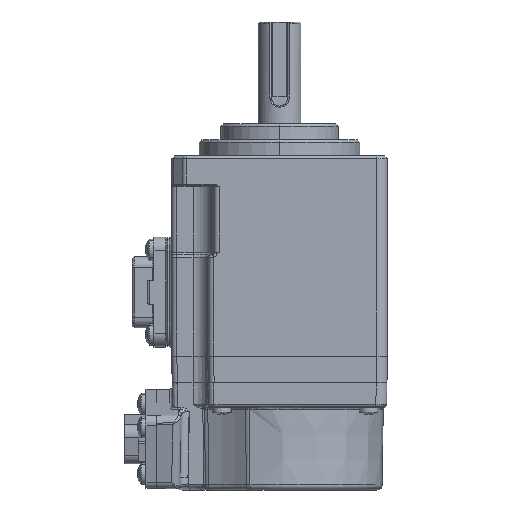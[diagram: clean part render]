
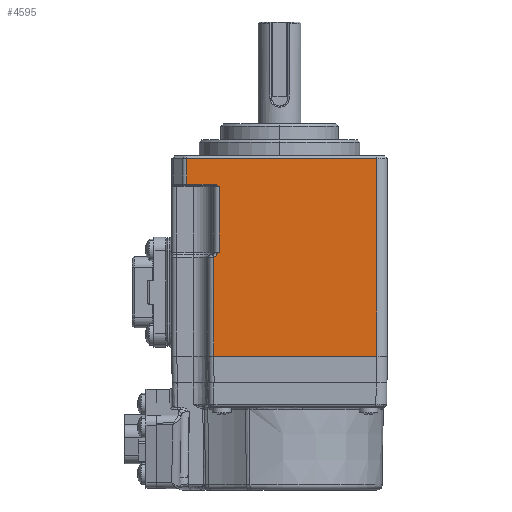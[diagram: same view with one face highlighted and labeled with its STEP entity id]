
A CAD part, left-side view. The second image highlights one B-rep face of the part: STEP entity #4595.
In plain terms, the highlighted planar face has unit normal (-1, 0, 0).
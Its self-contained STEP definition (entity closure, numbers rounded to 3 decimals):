
#520 = CARTESIAN_POINT ( 'NONE',  ( -20.15, 12.31, -24.924 ) ) ;
#2677 = LINE ( 'NONE', #82858, #77172 ) ;
#3313 = ORIENTED_EDGE ( 'NONE', *, *, #106056, .T. ) ;
#4147 = ORIENTED_EDGE ( 'NONE', *, *, #62176, .T. ) ;
#4595 = ADVANCED_FACE ( 'NONE', ( #45113 ), #28898, .T. ) ;
#4840 = VECTOR ( 'NONE', #79926, 1000. ) ;
#5604 = LINE ( 'NONE', #21321, #102404 ) ;
#7879 = LINE ( 'NONE', #104161, #4840 ) ;
#9216 = CARTESIAN_POINT ( 'NONE',  ( -20.15, 11.443, -24.189 ) ) ;
#10135 = EDGE_CURVE ( 'NONE', #52350, #14438, #67945, .T. ) ;
#13481 = DIRECTION ( 'NONE',  ( 0., 0., 1. ) ) ;
#14438 = VERTEX_POINT ( 'NONE', #96520 ) ;
#14859 = DIRECTION ( 'NONE',  ( 0., 0., -1. ) ) ;
#18900 = EDGE_CURVE ( 'NONE', #77951, #57094, #105154, .T. ) ;
#20103 = AXIS2_PLACEMENT_3D ( 'NONE', #65852, #109647, #101009 ) ;
#21321 = CARTESIAN_POINT ( 'NONE',  ( -20.15, 12.31, -55.7 ) ) ;
#21798 = CARTESIAN_POINT ( 'NONE',  ( -20.15, 17.336, -55.7 ) ) ;
#22883 = VERTEX_POINT ( 'NONE', #71019 ) ;
#23055 = EDGE_LOOP ( 'NONE', ( #27839, #60065, #4147, #95213, #99012, #105454, #3313, #86135, #47336 ) ) ;
#23962 = CARTESIAN_POINT ( 'NONE',  ( -20.15, -18.15, -43.4 ) ) ;
#27839 = ORIENTED_EDGE ( 'NONE', *, *, #64323, .F. ) ;
#28898 = PLANE ( 'NONE',  #20103 ) ;
#30194 = VERTEX_POINT ( 'NONE', #71326 ) ;
#31329 = CARTESIAN_POINT ( 'NONE',  ( -20.15, 11.445, -11.604 ) ) ;
#34342 = VECTOR ( 'NONE', #100686, 1000. ) ;
#35570 = CARTESIAN_POINT ( 'NONE',  ( -20.15, 12.31, -43.4 ) ) ;
#37811 = EDGE_CURVE ( 'NONE', #81852, #30194, #93590, .T. ) ;
#38082 = CARTESIAN_POINT ( 'NONE',  ( -20.15, 11.31, -11.3 ) ) ;
#38874 = CARTESIAN_POINT ( 'NONE',  ( -20.15, 12.204, -11.3 ) ) ;
#39025 = DIRECTION ( 'NONE',  ( 0., 1., 0. ) ) ;
#39129 = VECTOR ( 'NONE', #13481, 1000. ) ;
#39560 = CARTESIAN_POINT ( 'NONE',  ( -20.15, 17.336, -6.5 ) ) ;
#41369 = VERTEX_POINT ( 'NONE', #108300 ) ;
#45113 = FACE_OUTER_BOUND ( 'NONE', #23055, .T. ) ;
#47336 = ORIENTED_EDGE ( 'NONE', *, *, #72384, .T. ) ;
#48779 = CARTESIAN_POINT ( 'NONE',  ( -20.15, -20.15, -6.5 ) ) ;
#52350 = VERTEX_POINT ( 'NONE', #39560 ) ;
#57094 = VERTEX_POINT ( 'NONE', #61703 ) ;
#57421 = LINE ( 'NONE', #48779, #34342 ) ;
#60065 = ORIENTED_EDGE ( 'NONE', *, *, #37811, .T. ) ;
#61703 = CARTESIAN_POINT ( 'NONE',  ( -20.15, 12.31, -24.924 ) ) ;
#62098 = VECTOR ( 'NONE', #14859, 1000. ) ;
#62176 = EDGE_CURVE ( 'NONE', #30194, #52350, #57421, .T. ) ;
#63959 = CARTESIAN_POINT ( 'NONE',  ( -20.15, 11.31, -24. ) ) ;
#64046 = LINE ( 'NONE', #38082, #77603 ) ;
#64323 = EDGE_CURVE ( 'NONE', #81852, #88315, #2677, .T. ) ;
#65852 = CARTESIAN_POINT ( 'NONE',  ( -20.15, -20.15, -55.7 ) ) ;
#67945 = LINE ( 'NONE', #21798, #62098 ) ;
#71019 = CARTESIAN_POINT ( 'NONE',  ( -20.15, 12.204, -11.3 ) ) ;
#71326 = CARTESIAN_POINT ( 'NONE',  ( -20.15, -18.15, -6.5 ) ) ;
#72384 = EDGE_CURVE ( 'NONE', #57094, #88315, #5604, .T. ) ;
#73188 = CARTESIAN_POINT ( 'NONE',  ( -20.15, 11.903, -24.706 ) ) ;
#73277 = DIRECTION ( 'NONE',  ( 0., -1., 0. ) ) ;
#74049 = CARTESIAN_POINT ( 'NONE',  ( -20.15, 11.874, -11.357 ) ) ;
#74616 = CARTESIAN_POINT ( 'NONE',  ( -20.15, 11.31, -11.7 ) ) ;
#77172 = VECTOR ( 'NONE', #39025, 1000. ) ;
#77603 = VECTOR ( 'NONE', #73277, 1000. ) ;
#77951 = VERTEX_POINT ( 'NONE', #87090 ) ;
#78250 = EDGE_CURVE ( 'NONE', #22883, #41369, #95062, .T. ) ;
#79926 = DIRECTION ( 'NONE',  ( 0., 0., -1. ) ) ;
#81852 = VERTEX_POINT ( 'NONE', #23962 ) ;
#82858 = CARTESIAN_POINT ( 'NONE',  ( -20.15, -20.15, -43.4 ) ) ;
#86135 = ORIENTED_EDGE ( 'NONE', *, *, #18900, .T. ) ;
#87090 = CARTESIAN_POINT ( 'NONE',  ( -20.15, 11.31, -24. ) ) ;
#88315 = VERTEX_POINT ( 'NONE', #35570 ) ;
#89898 = CARTESIAN_POINT ( 'NONE',  ( -20.15, 12.092, -24.844 ) ) ;
#90467 = CARTESIAN_POINT ( 'NONE',  ( -20.15, 11.578, -24.379 ) ) ;
#91107 = DIRECTION ( 'NONE',  ( 0., 0., -1. ) ) ;
#93590 = LINE ( 'NONE', #110354, #39129 ) ;
#95062 = B_SPLINE_CURVE_WITH_KNOTS ( 'NONE', 3,
 ( #38874, #97855, #74049, #109219, #31329, #74616 ),
 .UNSPECIFIED., .F., .F.,
 ( 4, 2, 4 ),
 ( 0., 0., 0.001 ),
 .UNSPECIFIED. ) ;
#95213 = ORIENTED_EDGE ( 'NONE', *, *, #10135, .T. ) ;
#96520 = CARTESIAN_POINT ( 'NONE',  ( -20.15, 17.336, -11.3 ) ) ;
#97855 = CARTESIAN_POINT ( 'NONE',  ( -20.15, 12.036, -11.3 ) ) ;
#99012 = ORIENTED_EDGE ( 'NONE', *, *, #101697, .T. ) ;
#100686 = DIRECTION ( 'NONE',  ( 0., 1., 0. ) ) ;
#101009 = DIRECTION ( 'NONE',  ( 0., -1., 0. ) ) ;
#101697 = EDGE_CURVE ( 'NONE', #14438, #22883, #64046, .T. ) ;
#102404 = VECTOR ( 'NONE', #91107, 1000. ) ;
#104161 = CARTESIAN_POINT ( 'NONE',  ( -20.15, 11.31, -24.5 ) ) ;
#105154 = B_SPLINE_CURVE_WITH_KNOTS ( 'NONE', 3,
 ( #63959, #9216, #90467, #73188, #89898, #520 ),
 .UNSPECIFIED., .F., .F.,
 ( 4, 2, 4 ),
 ( 0., 0.001, 0.001 ),
 .UNSPECIFIED. ) ;
#105454 = ORIENTED_EDGE ( 'NONE', *, *, #78250, .T. ) ;
#106056 = EDGE_CURVE ( 'NONE', #41369, #77951, #7879, .T. ) ;
#108300 = CARTESIAN_POINT ( 'NONE',  ( -20.15, 11.31, -11.7 ) ) ;
#109219 = CARTESIAN_POINT ( 'NONE',  ( -20.15, 11.581, -11.508 ) ) ;
#109647 = DIRECTION ( 'NONE',  ( -1., 0., 0. ) ) ;
#110354 = CARTESIAN_POINT ( 'NONE',  ( -20.15, -18.15, -55.7 ) ) ;
